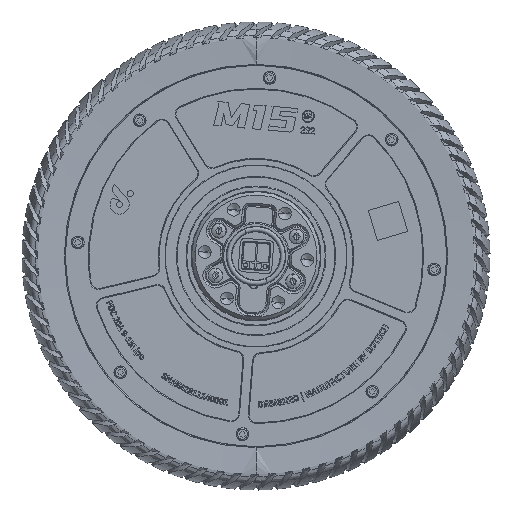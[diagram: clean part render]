
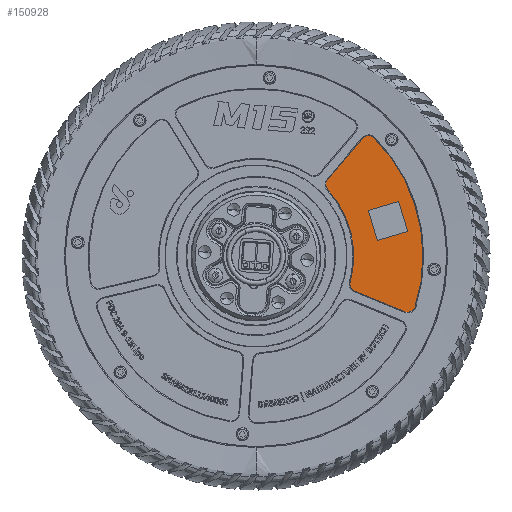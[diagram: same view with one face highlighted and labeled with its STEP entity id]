
A CAD part, left-side view. The second image highlights one B-rep face of the part: STEP entity #150928.
In plain terms, the highlighted planar face has unit normal (-1, 0, 0) as drawn and (0, 1, 0) by its records, which use the part's own axes.
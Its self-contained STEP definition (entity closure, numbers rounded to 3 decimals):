
#1298 = CARTESIAN_POINT ( 'NONE',  ( -9.622, 17.416, -46.673 ) ) ;
#1528 = CARTESIAN_POINT ( 'NONE',  ( 7.148, 17.416, -2.728 ) ) ;
#4179 = CARTESIAN_POINT ( 'NONE',  ( -47.057, 17.416, -40.369 ) ) ;
#4394 = CARTESIAN_POINT ( 'NONE',  ( -4.273, 17.416, 1.631 ) ) ;
#5637 = CARTESIAN_POINT ( 'NONE',  ( 0., 17.416, 0. ) ) ;
#9454 = CARTESIAN_POINT ( 'NONE',  ( 7.82, 17.416, -37.247 ) ) ;
#10444 = ORIENTED_EDGE ( 'NONE', *, *, #30649, .T. ) ;
#13483 = CARTESIAN_POINT ( 'NONE',  ( 15.035, 17.416, -63.237 ) ) ;
#18625 = CARTESIAN_POINT ( 'NONE',  ( 7.248, 17.416, -37.302 ) ) ;
#20892 = ORIENTED_EDGE ( 'NONE', *, *, #232542, .T. ) ;
#24508 = DIRECTION ( 'NONE',  ( 0., 0., 1. ) ) ;
#24558 = CARTESIAN_POINT ( 'NONE',  ( -14.016, 17.416, -58.188 ) ) ;
#27304 = VECTOR ( 'NONE', #79445, 1000. ) ;
#28136 = DIRECTION ( 'NONE',  ( 0.809, 0., 0.588 ) ) ;
#30649 = EDGE_CURVE ( 'NONE', #189463, #99983, #119173, .T. ) ;
#30830 = LINE ( 'NONE', #45694, #334546 ) ;
#36599 = CARTESIAN_POINT ( 'NONE',  ( -21.018, 17.416, -42.251 ) ) ;
#41646 = CARTESIAN_POINT ( 'NONE',  ( -31.747, 17.416, -25.537 ) ) ;
#44463 = DIRECTION ( 'NONE',  ( 0., 1., 0. ) ) ;
#45257 = AXIS2_PLACEMENT_3D ( 'NONE', #294545, #163270, #58053 ) ;
#45694 = CARTESIAN_POINT ( 'NONE',  ( -21.455, 17.416, -55.302 ) ) ;
#46670 = DIRECTION ( 'NONE',  ( -0.932, 0., 0.362 ) ) ;
#47081 = ORIENTED_EDGE ( 'NONE', *, *, #273233, .T. ) ;
#47701 = EDGE_CURVE ( 'NONE', #283333, #152802, #181017, .T. ) ;
#52877 = AXIS2_PLACEMENT_3D ( 'NONE', #121519, #197235, #144181 ) ;
#54234 = DIRECTION ( 'NONE',  ( -0.357, 0., -0.934 ) ) ;
#55383 = ORIENTED_EDGE ( 'NONE', *, *, #203752, .T. ) ;
#55643 = AXIS2_PLACEMENT_3D ( 'NONE', #94988, #145952, #254532 ) ;
#56439 = EDGE_CURVE ( 'NONE', #252161, #125951, #132042, .T. ) ;
#56646 = DIRECTION ( 'NONE',  ( 0., 1., 0. ) ) ;
#58053 = DIRECTION ( 'NONE',  ( 0., 0., 1. ) ) ;
#59775 = FACE_OUTER_BOUND ( 'NONE', #167561, .T. ) ;
#62050 = ORIENTED_EDGE ( 'NONE', *, *, #301061, .T. ) ;
#67658 = VECTOR ( 'NONE', #54234, 1000. ) ;
#68200 = CIRCLE ( 'NONE', #225809, 3. ) ;
#71815 = LINE ( 'NONE', #107437, #193164 ) ;
#71929 = VERTEX_POINT ( 'NONE', #101810 ) ;
#74555 = AXIS2_PLACEMENT_3D ( 'NONE', #253597, #151647, #148356 ) ;
#79445 = DIRECTION ( 'NONE',  ( 0.309, 0., -0.951 ) ) ;
#84635 = EDGE_CURVE ( 'NONE', #85197, #189463, #281958, .T. ) ;
#85197 = VERTEX_POINT ( 'NONE', #13483 ) ;
#85965 = VERTEX_POINT ( 'NONE', #138239 ) ;
#87489 = VERTEX_POINT ( 'NONE', #41646 ) ;
#92833 = AXIS2_PLACEMENT_3D ( 'NONE', #5637, #56646, #236656 ) ;
#93288 = VECTOR ( 'NONE', #46670, 1000. ) ;
#94988 = CARTESIAN_POINT ( 'NONE',  ( 7.82, 17.416, -40.247 ) ) ;
#98209 = ORIENTED_EDGE ( 'NONE', *, *, #269300, .T. ) ;
#98834 = CARTESIAN_POINT ( 'NONE',  ( -16.997, 17.416, -43.811 ) ) ;
#99983 = VERTEX_POINT ( 'NONE', #165914 ) ;
#101810 = CARTESIAN_POINT ( 'NONE',  ( -29.983, 17.416, -24.964 ) ) ;
#102117 = DIRECTION ( 'NONE',  ( 0., 0., 1. ) ) ;
#102693 = DIRECTION ( 'NONE',  ( 0., 1., 0. ) ) ;
#107437 = CARTESIAN_POINT ( 'NONE',  ( -51.386, 17.416, -39.806 ) ) ;
#107841 = ORIENTED_EDGE ( 'NONE', *, *, #114835, .T. ) ;
#108696 = EDGE_CURVE ( 'NONE', #227110, #311622, #247709, .T. ) ;
#111007 = ORIENTED_EDGE ( 'NONE', *, *, #108696, .T. ) ;
#111715 = CARTESIAN_POINT ( 'NONE',  ( -49.334, 17.416, -42.322 ) ) ;
#114835 = EDGE_CURVE ( 'NONE', #116137, #85965, #68200, .T. ) ;
#116137 = VERTEX_POINT ( 'NONE', #9454 ) ;
#116740 = CIRCLE ( 'NONE', #55643, 3. ) ;
#119173 = CIRCLE ( 'NONE', #178230, 3. ) ;
#121519 = CARTESIAN_POINT ( 'NONE',  ( 14.341, 17.416, -60.319 ) ) ;
#125940 = CARTESIAN_POINT ( 'NONE',  ( 0., 17.416, 0. ) ) ;
#125951 = VERTEX_POINT ( 'NONE', #18625 ) ;
#132042 = CIRCLE ( 'NONE', #74555, 38. ) ;
#138239 = CARTESIAN_POINT ( 'NONE',  ( 10.673, 17.416, -39.32 ) ) ;
#142728 = EDGE_CURVE ( 'NONE', #125951, #116137, #116740, .T. ) ;
#144181 = DIRECTION ( 'NONE',  ( 0., 0., 1. ) ) ;
#145952 = DIRECTION ( 'NONE',  ( 0., 1., 0. ) ) ;
#148356 = DIRECTION ( 'NONE',  ( 0., 0., 1. ) ) ;
#150928 = ADVANCED_FACE ( 'NONE', ( #266446, #59775 ), #312491, .T. ) ;
#151647 = DIRECTION ( 'NONE',  ( 0., -1., 0. ) ) ;
#152802 = VERTEX_POINT ( 'NONE', #283283 ) ;
#157272 = CIRCLE ( 'NONE', #298063, 3. ) ;
#161579 = EDGE_LOOP ( 'NONE', ( #111007, #47081, #176197, #275146 ) ) ;
#163270 = DIRECTION ( 'NONE',  ( 0., 1., 0. ) ) ;
#165914 = CARTESIAN_POINT ( 'NONE',  ( -48.82, 17.416, -37.942 ) ) ;
#167561 = EDGE_LOOP ( 'NONE', ( #259979, #98209, #210176, #10444, #55383, #20892, #62050, #169245, #239685, #107841 ) ) ;
#169245 = ORIENTED_EDGE ( 'NONE', *, *, #56439, .T. ) ;
#175938 = EDGE_CURVE ( 'NONE', #152802, #227110, #30830, .T. ) ;
#176197 = ORIENTED_EDGE ( 'NONE', *, *, #47701, .T. ) ;
#178230 = AXIS2_PLACEMENT_3D ( 'NONE', #4179, #234110, #289427 ) ;
#178495 = AXIS2_PLACEMENT_3D ( 'NONE', #125940, #44463, #307041 ) ;
#179014 = DIRECTION ( 'NONE',  ( 0., 1., 0. ) ) ;
#180210 = CARTESIAN_POINT ( 'NONE',  ( 18.174, 17.416, -62.407 ) ) ;
#181017 = LINE ( 'NONE', #4394, #67658 ) ;
#189463 = VERTEX_POINT ( 'NONE', #111715 ) ;
#193164 = VECTOR ( 'NONE', #28136, 1000. ) ;
#197235 = DIRECTION ( 'NONE',  ( 0., 1., 0. ) ) ;
#203752 = EDGE_CURVE ( 'NONE', #99983, #87489, #71815, .T. ) ;
#210176 = ORIENTED_EDGE ( 'NONE', *, *, #84635, .T. ) ;
#215171 = CIRCLE ( 'NONE', #45257, 3. ) ;
#225809 = AXIS2_PLACEMENT_3D ( 'NONE', #334099, #179014, #102117 ) ;
#227110 = VERTEX_POINT ( 'NONE', #24558 ) ;
#227935 = DIRECTION ( 'NONE',  ( 0.932, 0., -0.362 ) ) ;
#232542 = EDGE_CURVE ( 'NONE', #87489, #71929, #215171, .T. ) ;
#234110 = DIRECTION ( 'NONE',  ( 0., 1., 0. ) ) ;
#235520 = EDGE_CURVE ( 'NONE', #85965, #274928, #242126, .T. ) ;
#236656 = DIRECTION ( 'NONE',  ( 0., 0., 1. ) ) ;
#239562 = VECTOR ( 'NONE', #310653, 1000. ) ;
#239685 = ORIENTED_EDGE ( 'NONE', *, *, #142728, .T. ) ;
#242126 = LINE ( 'NONE', #180210, #27304 ) ;
#247709 = LINE ( 'NONE', #1528, #239562 ) ;
#252161 = VERTEX_POINT ( 'NONE', #262187 ) ;
#253597 = CARTESIAN_POINT ( 'NONE',  ( 0., 17.416, 0. ) ) ;
#254445 = CARTESIAN_POINT ( 'NONE',  ( -29.983, 17.416, -27.964 ) ) ;
#254532 = DIRECTION ( 'NONE',  ( 0., 0., 1. ) ) ;
#259979 = ORIENTED_EDGE ( 'NONE', *, *, #235520, .T. ) ;
#262187 = CARTESIAN_POINT ( 'NONE',  ( -27.789, 17.416, -25.918 ) ) ;
#266446 = FACE_BOUND ( 'NONE', #161579, .T. ) ;
#269300 = EDGE_CURVE ( 'NONE', #274928, #85197, #306774, .T. ) ;
#273233 = EDGE_CURVE ( 'NONE', #311622, #283333, #335783, .T. ) ;
#274928 = VERTEX_POINT ( 'NONE', #283323 ) ;
#275146 = ORIENTED_EDGE ( 'NONE', *, *, #175938, .T. ) ;
#281958 = CIRCLE ( 'NONE', #178495, 65. ) ;
#283283 = CARTESIAN_POINT ( 'NONE',  ( -25.413, 17.416, -53.766 ) ) ;
#283323 = CARTESIAN_POINT ( 'NONE',  ( 17.195, 17.416, -59.391 ) ) ;
#283333 = VERTEX_POINT ( 'NONE', #36599 ) ;
#289427 = DIRECTION ( 'NONE',  ( 0., 0., 1. ) ) ;
#294545 = CARTESIAN_POINT ( 'NONE',  ( -29.983, 17.416, -27.964 ) ) ;
#298063 = AXIS2_PLACEMENT_3D ( 'NONE', #254445, #102693, #24508 ) ;
#301061 = EDGE_CURVE ( 'NONE', #71929, #252161, #157272, .T. ) ;
#306774 = CIRCLE ( 'NONE', #52877, 3. ) ;
#307041 = DIRECTION ( 'NONE',  ( 0., 0., 1. ) ) ;
#310653 = DIRECTION ( 'NONE',  ( 0.357, 0., 0.934 ) ) ;
#311622 = VERTEX_POINT ( 'NONE', #1298 ) ;
#312491 = PLANE ( 'NONE',  #92833 ) ;
#334099 = CARTESIAN_POINT ( 'NONE',  ( 7.82, 17.416, -40.247 ) ) ;
#334546 = VECTOR ( 'NONE', #227935, 1000. ) ;
#335783 = LINE ( 'NONE', #98834, #93288 ) ;
